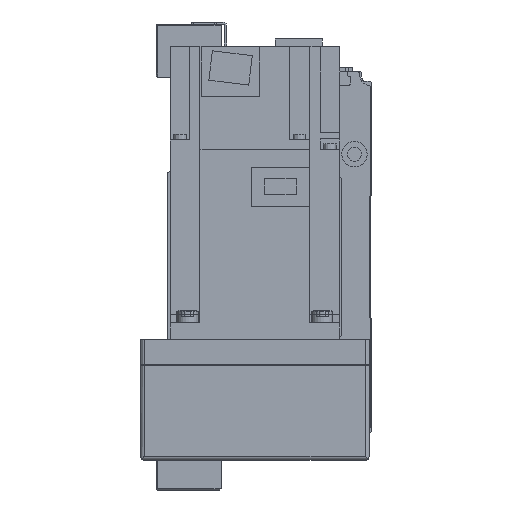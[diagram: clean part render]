
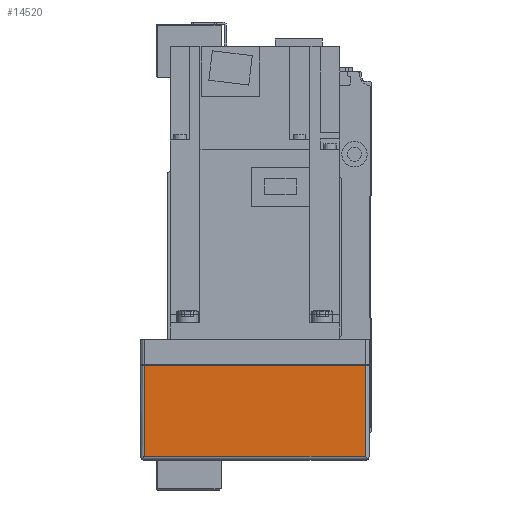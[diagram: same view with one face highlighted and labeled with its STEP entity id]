
A CAD part, left-side view. The second image highlights one B-rep face of the part: STEP entity #14520.
In plain terms, the highlighted planar face has unit normal (-1, 0, 0).
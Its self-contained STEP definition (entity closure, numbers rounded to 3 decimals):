
#2608=ORIENTED_EDGE('',*,*,#5998,.T.);
#2609=ORIENTED_EDGE('',*,*,#5926,.T.);
#2610=ORIENTED_EDGE('',*,*,#5999,.F.);
#2611=ORIENTED_EDGE('',*,*,#5938,.F.);
#5926=EDGE_CURVE('',#7770,#7773,#9292,.T.);
#5938=EDGE_CURVE('',#7780,#7782,#9297,.T.);
#5998=EDGE_CURVE('',#7780,#7770,#9339,.T.);
#5999=EDGE_CURVE('',#7782,#7773,#9340,.T.);
#7770=VERTEX_POINT('',#22793);
#7773=VERTEX_POINT('',#22799);
#7780=VERTEX_POINT('',#22822);
#7782=VERTEX_POINT('',#22825);
#9292=LINE('',#22800,#10605);
#9297=LINE('',#22824,#10610);
#9339=LINE('',#22948,#10652);
#9340=LINE('',#22949,#10653);
#10605=VECTOR('',#18169,1000.);
#10610=VECTOR('',#18196,1000.);
#10652=VECTOR('',#18316,1000.);
#10653=VECTOR('',#18317,1000.);
#11761=EDGE_LOOP('',(#2608,#2609,#2610,#2611));
#12920=FACE_BOUND('',#11761,.T.);
#13911=PLANE('',#15619);
#14520=ADVANCED_FACE('',(#12920),#13911,.T.);
#15619=AXIS2_PLACEMENT_3D('',#22947,#18314,#18315);
#18169=DIRECTION('',(0.,0.,1.));
#18196=DIRECTION('',(0.,0.,1.));
#18314=DIRECTION('',(-1.,0.,0.));
#18315=DIRECTION('',(0.,0.,1.));
#18316=DIRECTION('',(0.,-1.,0.));
#18317=DIRECTION('',(0.,-1.,0.));
#22793=CARTESIAN_POINT('',(-230.,-52.,-55.));
#22799=CARTESIAN_POINT('',(-230.,-52.,-12.));
#22800=CARTESIAN_POINT('',(-230.,-52.,-57.));
#22822=CARTESIAN_POINT('',(-230.,52.,-55.));
#22824=CARTESIAN_POINT('',(-230.,52.,-57.));
#22825=CARTESIAN_POINT('',(-230.,52.,-12.));
#22947=CARTESIAN_POINT('',(-230.,52.,-57.));
#22948=CARTESIAN_POINT('',(-230.,54.,-55.));
#22949=CARTESIAN_POINT('',(-230.,52.,-12.));
